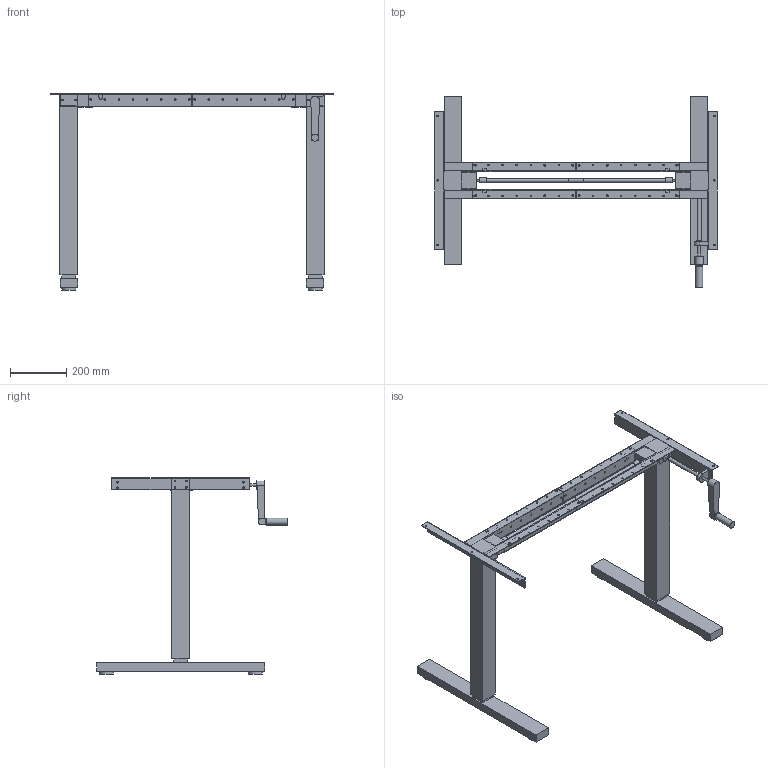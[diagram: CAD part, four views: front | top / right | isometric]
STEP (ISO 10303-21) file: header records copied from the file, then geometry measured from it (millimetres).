
FILE_DESCRIPTION( ( 'STEP AP214' ), '1' );
FILE_NAME( 'D:/Yug/2022/Actiforce_2022/QC/9309795.stp', '2022-03-02T07:30:50', ( '' ), ( '' ), ' ', 'PARTsolutions', ' ' );
FILE_SCHEMA( ( 'AUTOMOTIVE_DESIGN { 1 0 10303 214 1 1 1 1 }' ) );
Length unit declared in the file: millimetre
Products named in the file (8): 9309795(W1005XH658.15); _foot_hc_slim_1005_658.15; _column_r_hc_slim_1005_658.15; _top_support_hc_slim; _handle_hc_slim; _crossbar_sf_300; _column_l_hc_slim_1005_658.15; _rod_hc_slim
Assembly tree (10 placements, depth 2):
  9309795(W1005XH658.15)
    _foot_hc_slim_1005_658.15  x2
    _column_r_hc_slim_1005_658.15
    _top_support_hc_slim  x2
    _handle_hc_slim
    _crossbar_sf_300  x2
    _column_l_hc_slim_1005_658.15
    _rod_hc_slim
Bounding box: 1005 x 679 x 700 mm (x, y, z)
Volume: 9035539.1 mm3; surface area: 1346087.1 mm2
Topology: 10 solids, 10 shells, 327 faces, 863 edges, 577 vertices
Faces by surface type: plane 177, cylinder 150
Full cylindrical faces by diameter (mm): 5 x6, 5.2 x28, 5.3 x4, 6.2 x36, 6.36 x8, 6.5 x32, 8 x6, 8.06 x1, 9.24 x1, 13 x1, 13.5 x1, 14 x1, 18 x2, 18.3 x1, 18.38 x1, 25 x1, 30.96 x1, 32.68 x1, 50 x4
Entity records: 9024 total; most frequent: DIRECTION 1200, CARTESIAN_POINT 1155, ORIENTED_EDGE 1022, EDGE_CURVE 511, EDGE_LOOP 482, AXIS2_PLACEMENT_3D 442, VERTEX_POINT 397, FACE_OUTER_BOUND 323
